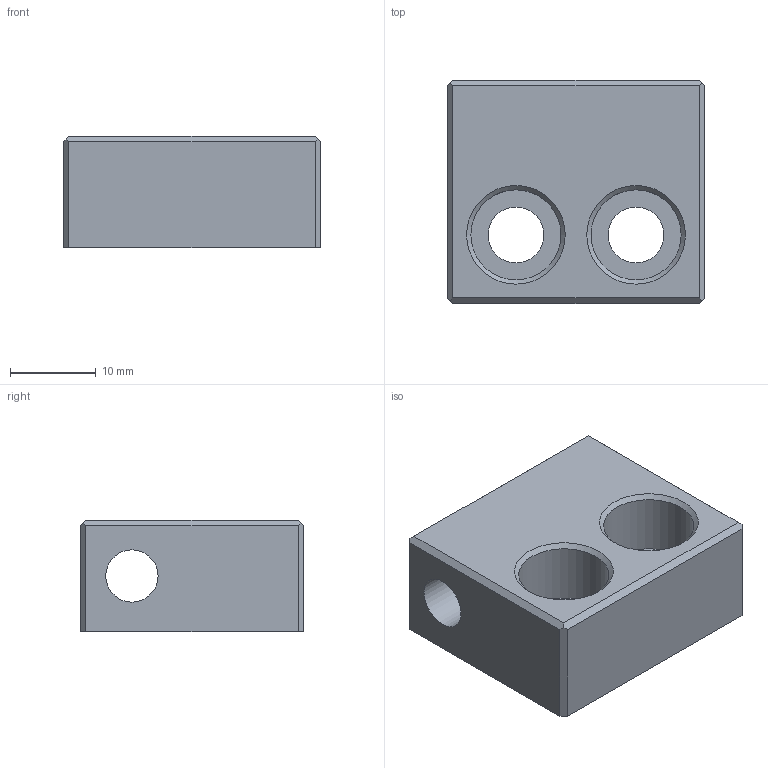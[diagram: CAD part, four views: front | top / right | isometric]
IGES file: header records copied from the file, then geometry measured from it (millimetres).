
Start section: Data from Parasolid IGES Translator 20.0.26, Copyright(c) 2006 Siemens P LM Software. All Rights Reserved.
Global section: file name: AB-302613.igs; native system: By Siemens PLM Incorporated; preprocessor: XPlus GENERIC/IGES 20.0.26; author: Noname; organization: Noname; date: 20201102.204554; units: millimetre
Bounding box: 30 x 26 x 13 mm (x, y, z)
Surface area: 4036.9 mm2 (no closed solid volume)
Topology: 0 solids, 0 shells, 23 faces, 110 edges, 96 vertices
Faces by surface type: extrusion 16, revolution 7
